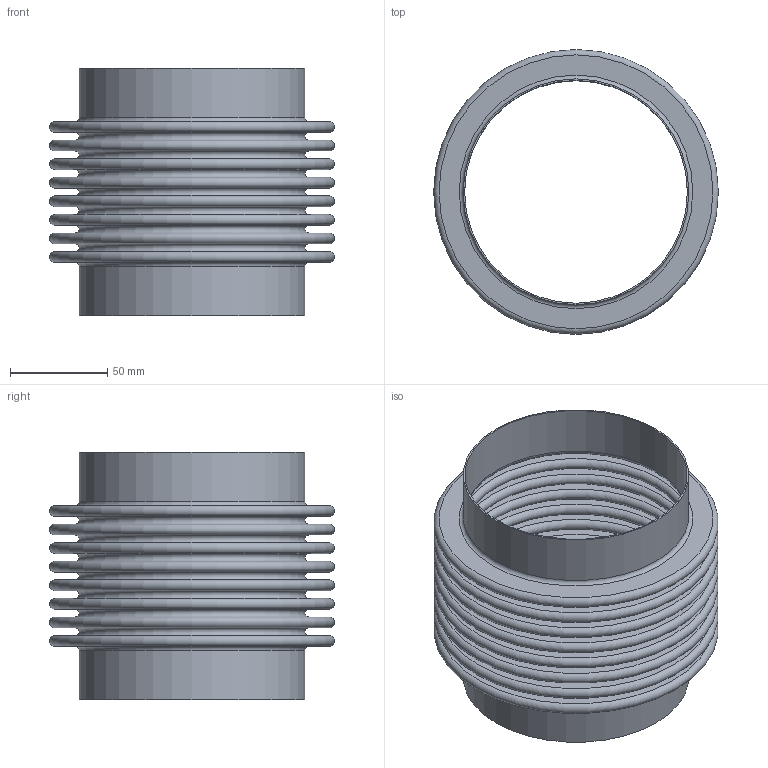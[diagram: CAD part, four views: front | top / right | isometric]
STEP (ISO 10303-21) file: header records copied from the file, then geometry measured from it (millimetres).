
FILE_DESCRIPTION(/* description */ ('STOCK BELLOWS: U.S-4-8-150S, 4.500 I.D., 5.750 O.D., 1 PLY, 22 GA (0.030 THICK), 8 CONS., 0.375 PITCH, 1.000 TANGENT. '),/* implementation_level */ '2;1');
FILE_NAME(/* name */ 'STOCK BELLOW - US-4-8-150S.stp',/* time_stamp */ '2026-07-21T12:55:56-05:00',/* author */ ('KennethB'),/* organization */ (''),/* preprocessor_version */ 'ST-DEVELOPER v20.1',/* originating_system */ 'Autodesk Inventor 2026',/* authorisation */ '');
FILE_SCHEMA (('AUTOMOTIVE_DESIGN { 1 0 10303 214 3 1 1 }'));
Length unit declared in the file: inch
Products named in the file (1): STOCK BELLOW - US-4-8-150S
Bounding box: 146.05 x 146.05 x 127 mm (x, y, z)
Volume: 102900.1 mm3; surface area: 271731.8 mm2
Topology: 3 solids, 3 shells, 76 faces, 114 edges, 77 vertices
Faces by surface type: plane 38, torus 34, cylinder 4
Full cylindrical faces by diameter (mm): 114.3 x2, 115.824 x2
Entity records: 1814 total; most frequent: DIRECTION 378, CARTESIAN_POINT 268, ORIENTED_EDGE 228, AXIS2_PLACEMENT_3D 187, EDGE_LOOP 114, EDGE_CURVE 114, CIRCLE 110, FACE_OUTER_BOUND 76
